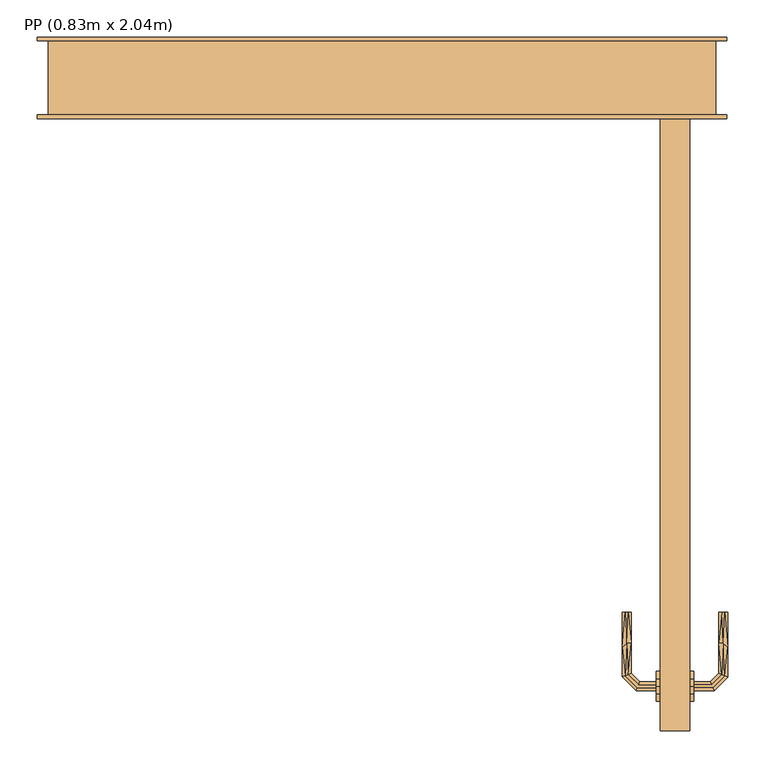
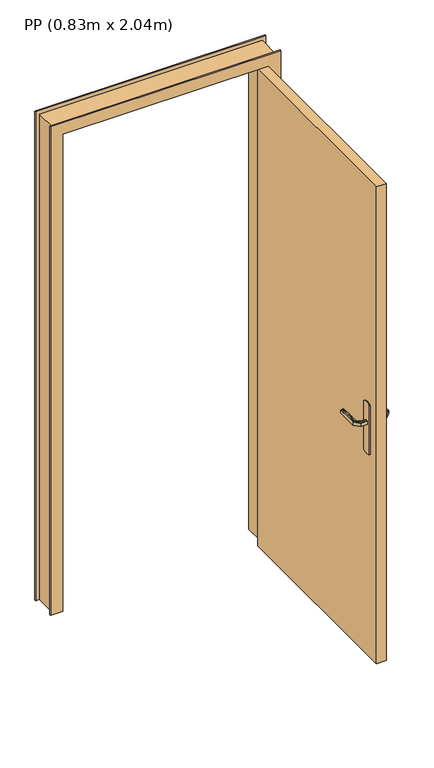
"""IFC4 building model written with IfcOpenShell, lengths in millimetres: door geometry, PP (0.83m x 2.04m)."""

from ifc_helpers import new_model, si_unit, frame, origin, origin_with_axes, place, context, project, spatial, polyline, outline, extrude, faceted_brep, source, transform, mapped, element, save


def pp_0_83m_x_2_04m_9e9eec6d(model_context):
    return source(origin(), model_context, "Body", "SolidModel", [
        faceted_brep([(820.0, -772.0252987, 1007.7804408), (820.0, -776.0, 1007.0), (820.0, -776.0, 993.0), (820.0, -772.0252987, 992.2195592), (820.0, -767.9747013, 992.2195592), (820.0, -764.0, 993.0), (820.0, -764.0, 1007.0), (820.0, -767.9747013, 1007.7804408), (797.5147955, -764.0, 993.0), (797.5147955, -764.0, 1007.0), (795.8684203, -767.9747013, 1007.7804408), (782.0548128, -754.1610938, 1007.7804408), (778.0042155, -755.8389062, 1007.7804408), (794.1906079, -772.0252987, 1007.7804408), (792.5442327, -776.0, 1007.0), (792.5442327, -776.0, 993.0), (794.1906079, -772.0252987, 992.2195592), (778.0042155, -755.8389062, 992.2195592), (782.0548128, -754.1610938, 992.2195592), (795.8684203, -767.9747013, 992.2195592), (786.0295141, -752.5147186, 993.0), (786.0295141, -752.5147186, 1007.0), (774.0295141, -757.4852814, 1007.0), (774.0295141, -757.4852814, 993.0), (786.0295141, -669.9542163, 993.0), (782.0548128, -669.9542163, 992.2195592), (778.0042155, -669.9542163, 992.2195592), (774.0295141, -669.9542163, 993.0), (774.0295141, -669.9542163, 1007.0), (778.0042155, -669.9542163, 1007.7804408), (782.0548128, -669.9542163, 1007.7804408), (786.0295141, -669.9542163, 1007.0), (786.0295141, -711.2344794, 993.0), (786.0295141, -711.2344675, 1007.0), (780.0295141, -712.0576551, 1007.8786868), (774.0295141, -717.5547942, 1007.0), (774.0295141, -717.5547957, 993.0), (780.0295142, -712.0576549, 992.1213132)], [[[0, 1, 2, 3, 4, 5, 6, 7]], [[6, 5, 8, 9]], [[9, 10, 7, 6]], [[10, 11, 12, 13, 0, 7]], [[13, 14, 1, 0]], [[2, 1, 14, 15]], [[15, 16, 3, 2]], [[16, 17, 18, 19, 4, 3]], [[19, 8, 5, 4]], [[9, 8, 20, 21]], [[21, 11, 10, 9]], [[12, 22, 14, 13]], [[15, 14, 22, 23]], [[23, 17, 16, 15]], [[18, 20, 8, 19]], [[24, 25, 26, 27, 28, 29, 30, 31]], [[21, 20, 32, 24, 31, 33]], [[33, 30, 34]], [[35, 34, 29]], [[21, 33, 11]], [[33, 31, 30]], [[28, 35, 29]], [[22, 12, 35]], [[35, 12, 34]], [[12, 11, 34]], [[11, 33, 34]], [[29, 34, 30]], [[22, 35, 28, 27, 36, 23]], [[36, 26, 37]], [[27, 26, 36]], [[17, 23, 36]], [[37, 32, 18]], [[20, 18, 32]], [[32, 25, 24]], [[26, 25, 37]], [[25, 32, 37]], [[17, 36, 37]], [[17, 37, 18]]]),
        faceted_brep([(870.0, -772.0252987, 1007.7804408), (870.0, -767.9747013, 1007.7804408), (870.0, -764.0, 1007.0), (870.0, -764.0, 993.0), (870.0, -767.9747013, 992.2195592), (870.0, -772.0252987, 992.2195592), (870.0, -776.0, 993.0), (870.0, -776.0, 1007.0), (897.6509507, -776.0, 1007.0), (896.0045755, -772.0252987, 1007.7804408), (912.0534593, -755.9764148, 1007.7804408), (908.002862, -754.2986025, 1007.7804408), (894.3267632, -767.9747013, 1007.7804408), (892.680388, -764.0, 1007.0), (892.680388, -764.0, 993.0), (894.3267632, -767.9747013, 992.2195592), (908.002862, -754.2986025, 992.2195592), (912.0534593, -755.9764148, 992.2195592), (896.0045755, -772.0252987, 992.2195592), (897.6509507, -776.0, 993.0), (916.0281607, -757.62279, 1007.0), (904.0281607, -752.6522273, 1007.0), (904.0281607, -752.6522273, 993.0), (916.0281607, -757.62279, 993.0), (916.0281607, -669.9813594, 993.0), (912.0534593, -669.9813594, 992.2195592), (908.002862, -669.9813594, 992.2195592), (904.0281607, -669.9813594, 993.0), (904.0281607, -669.9813594, 1007.0), (908.002862, -669.9813594, 1007.7804408), (912.0534593, -669.9813594, 1007.7804408), (916.0281607, -669.9813594, 1007.0), (916.0281607, -717.6923028, 1007.0), (910.0281607, -712.1399809, 1007.8786868), (904.0281607, -711.3167933, 1007.0), (904.0281607, -711.3167933, 993.0), (910.0281608, -712.1399811, 992.1213132), (916.0281607, -717.6922998, 993.0)], [[[0, 1, 2, 3, 4, 5, 6, 7]], [[8, 9, 0, 7]], [[9, 10, 11, 12, 1, 0]], [[12, 13, 2, 1]], [[3, 2, 13, 14]], [[14, 15, 4, 3]], [[15, 16, 17, 18, 5, 4]], [[18, 19, 6, 5]], [[7, 6, 19, 8]], [[20, 10, 9, 8]], [[11, 21, 13, 12]], [[14, 13, 21, 22]], [[22, 16, 15, 14]], [[17, 23, 19, 18]], [[8, 19, 23, 20]], [[24, 25, 26, 27, 28, 29, 30, 31]], [[32, 30, 33]], [[31, 30, 32]], [[10, 20, 32]], [[33, 34, 11]], [[21, 11, 34]], [[34, 29, 28]], [[30, 29, 33]], [[29, 34, 33]], [[10, 32, 33]], [[10, 33, 11]], [[22, 21, 34, 28, 27, 35]], [[35, 26, 36]], [[37, 36, 25]], [[22, 35, 16]], [[35, 27, 26]], [[24, 37, 25]], [[23, 17, 37]], [[37, 17, 36]], [[17, 16, 36]], [[16, 35, 36]], [[25, 36, 26]], [[20, 23, 37, 24, 31, 32]]]),
        extrude(outline(polyline([(-759.6472382, 1083.9960169), (-750.0, 1080.0), (-750.0, 870.0), (-759.6472382, 866.0039831), (-770.0, 864.6410162), (-780.3527618, 866.0039831), (-790.0, 870.0), (-790.0, 1080.0), (-780.3527618, 1083.9960169), (-770.0, 1085.3589838), (-759.6472382, 1083.9960169)])), frame((865.0, 0.0, 0.0), z_axis=(1.0, 0.0, 0.0), x_axis=(0.0, 1.0, 0.0)), (0.0, 0.0, 1.0), 5.0),
        extrude(outline(polyline([(825.0, -830.0), (825.0, 0.0), (865.0, 0.0), (865.0, -830.0), (825.0, -830.0)])), origin_with_axes(), (0.0, 0.0, 1.0), 2040.0),
        faceted_brep([(0.0, 100.0, 0.0), (-15.0, 100.0, 0.0), (-15.0, 105.0, 0.0), (50.0, 105.0, 0.0), (50.0, 40.0, 0.0), (35.0, 40.0, 0.0), (35.0, -5.0, 0.0), (-15.0, -5.0, 0.0), (-15.0, 0.0, 0.0), (0.0, 0.0, 0.0), (0.0, 0.0, 2075.0), (0.0, 100.0, 2075.0), (900.0, 100.0, 2075.0), (900.0, 100.0, 0.0), (915.0, 100.0, 0.0), (915.0, 100.0, 2090.0), (-15.0, 100.0, 2090.0), (50.0, 105.0, 2025.0), (50.0, 40.0, 2025.0), (850.0, 40.0, 2025.0), (850.0, 40.0, 0.0), (865.0, 40.0, 0.0), (865.0, 40.0, 2040.0), (35.0, 40.0, 2040.0), (900.0, 0.0, 2075.0), (900.0, 0.0, 0.0), (915.0, 0.0, 0.0), (915.0, -5.0, 0.0), (865.0, -5.0, 0.0), (850.0, 105.0, 0.0), (915.0, 105.0, 0.0), (850.0, 105.0, 2025.0), (35.0, -5.0, 2040.0), (865.0, -5.0, 2040.0), (915.0, -5.0, 2090.0), (-15.0, -5.0, 2090.0), (-15.0, 0.0, 2090.0), (915.0, 0.0, 2090.0), (-15.0, 105.0, 2090.0), (915.0, 105.0, 2090.0)], [[[0, 1, 2, 3, 4, 5, 6, 7, 8, 9]], [[0, 9, 10, 11]], [[1, 0, 11, 12, 13, 14, 15, 16]], [[3, 17, 18, 4]], [[5, 4, 18, 19, 20, 21, 22, 23]], [[12, 24, 25, 13]], [[13, 25, 26, 27, 28, 21, 20, 29, 30, 14]], [[19, 31, 29, 20]], [[11, 10, 24, 12]], [[18, 17, 31, 19]], [[5, 23, 32, 6]], [[7, 6, 32, 33, 28, 27, 34, 35]], [[8, 7, 35, 36]], [[9, 8, 36, 37, 26, 25, 24, 10]], [[2, 1, 16, 38]], [[3, 2, 38, 39, 30, 29, 31, 17]], [[33, 22, 21, 28]], [[37, 34, 27, 26]], [[39, 15, 14, 30]], [[32, 23, 22, 33]], [[36, 35, 34, 37]], [[38, 16, 15, 39]]]),
        extrude(outline(polyline([(-759.6472382, 1083.9960169), (-750.0, 1080.0), (-750.0, 870.0), (-759.6472382, 866.0039831), (-770.0, 864.6410162), (-780.3527618, 866.0039831), (-790.0, 870.0), (-790.0, 1080.0), (-780.3527618, 1083.9960169), (-770.0, 1085.3589838), (-759.6472382, 1083.9960169)])), frame((820.0, 0.0, 0.0), z_axis=(1.0, 0.0, 0.0), x_axis=(0.0, 1.0, 0.0)), (0.0, 0.0, 1.0), 5.0),
    ])


if __name__ == "__main__":
    model = new_model("IFC4")
    model_context = context("Model", 3, world=origin())
    ifc_project = project(units=[si_unit("LENGTHUNIT", "METRE", prefix="MILLI")], contexts=[model_context])
    site = spatial("IfcSite", under=ifc_project)
    building = spatial("IfcBuilding", under=site)
    placement = place(None, origin())
    pp_0_83m_x_2_04m_shape = pp_0_83m_x_2_04m_9e9eec6d(model_context)
    element("IfcDoor", 1, ObjectType="PP (0.83m x 2.04m)", at=placement, inside=building, context=model_context, shape_type="MappedRepresentation", body=[
        mapped(pp_0_83m_x_2_04m_shape, transform((0.0, 0.0, 0.0), x_axis=(1.0, 0.0, 0.0), y_axis=(0.0, 1.0, 0.0), z_axis=(0.0, 0.0, 1.0))),
    ])
    save(model, "model.ifc")
